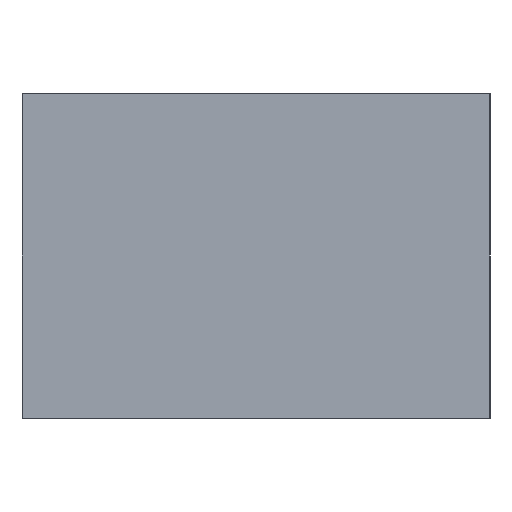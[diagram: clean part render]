
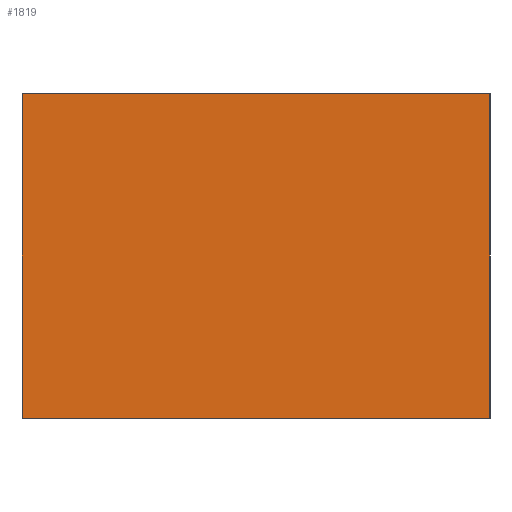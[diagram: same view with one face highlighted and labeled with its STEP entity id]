
A CAD part, left-side view. The second image highlights one B-rep face of the part: STEP entity #1819.
In plain terms, the highlighted planar face has unit normal (-1, 0, 0).
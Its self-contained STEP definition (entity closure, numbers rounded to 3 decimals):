
#14 = DIRECTION ( 'NONE',  ( 1., 0., 0. ) ) ;
#22 = LINE ( 'NONE', #1683, #800 ) ;
#144 = DIRECTION ( 'NONE',  ( 0., -1., 0. ) ) ;
#151 = CARTESIAN_POINT ( 'NONE',  ( -98., 35.5, 0. ) ) ;
#223 = VECTOR ( 'NONE', #546, 1000. ) ;
#224 = CARTESIAN_POINT ( 'NONE',  ( -98., -35.5, 0. ) ) ;
#270 = DIRECTION ( 'NONE',  ( 0., 0., -1. ) ) ;
#290 = CARTESIAN_POINT ( 'NONE',  ( -98., 35.5, 0. ) ) ;
#452 = VECTOR ( 'NONE', #144, 1000. ) ;
#504 = EDGE_CURVE ( 'NONE', #601, #892, #1569, .T. ) ;
#505 = ORIENTED_EDGE ( 'NONE', *, *, #661, .F. ) ;
#546 = DIRECTION ( 'NONE',  ( 0., -1., 0. ) ) ;
#601 = VERTEX_POINT ( 'NONE', #1539 ) ;
#660 = VERTEX_POINT ( 'NONE', #1093 ) ;
#661 = EDGE_CURVE ( 'NONE', #660, #1153, #22, .T. ) ;
#771 = VECTOR ( 'NONE', #1086, 1000. ) ;
#800 = VECTOR ( 'NONE', #1402, 1000. ) ;
#842 = EDGE_CURVE ( 'NONE', #892, #1153, #847, .T. ) ;
#847 = LINE ( 'NONE', #290, #452 ) ;
#892 = VERTEX_POINT ( 'NONE', #151 ) ;
#1074 = CARTESIAN_POINT ( 'NONE',  ( -98., 35.5, 49.3 ) ) ;
#1086 = DIRECTION ( 'NONE',  ( 0., 0., -1. ) ) ;
#1093 = CARTESIAN_POINT ( 'NONE',  ( -98., -35.5, 49.3 ) ) ;
#1153 = VERTEX_POINT ( 'NONE', #224 ) ;
#1178 = AXIS2_PLACEMENT_3D ( 'NONE', #1737, #14, #270 ) ;
#1205 = ORIENTED_EDGE ( 'NONE', *, *, #1495, .F. ) ;
#1220 = LINE ( 'NONE', #1446, #223 ) ;
#1302 = FACE_OUTER_BOUND ( 'NONE', #1652, .T. ) ;
#1308 = PLANE ( 'NONE',  #1178 ) ;
#1402 = DIRECTION ( 'NONE',  ( 0., 0., -1. ) ) ;
#1446 = CARTESIAN_POINT ( 'NONE',  ( -98., 35.5, 49.3 ) ) ;
#1485 = ORIENTED_EDGE ( 'NONE', *, *, #842, .T. ) ;
#1495 = EDGE_CURVE ( 'NONE', #601, #660, #1220, .T. ) ;
#1539 = CARTESIAN_POINT ( 'NONE',  ( -98., 35.5, 49.3 ) ) ;
#1555 = ORIENTED_EDGE ( 'NONE', *, *, #504, .T. ) ;
#1569 = LINE ( 'NONE', #1074, #771 ) ;
#1652 = EDGE_LOOP ( 'NONE', ( #1485, #505, #1205, #1555 ) ) ;
#1683 = CARTESIAN_POINT ( 'NONE',  ( -98., -35.5, 49.3 ) ) ;
#1737 = CARTESIAN_POINT ( 'NONE',  ( -98., 35.5, 49.3 ) ) ;
#1819 = ADVANCED_FACE ( 'NONE', ( #1302 ), #1308, .F. ) ;
